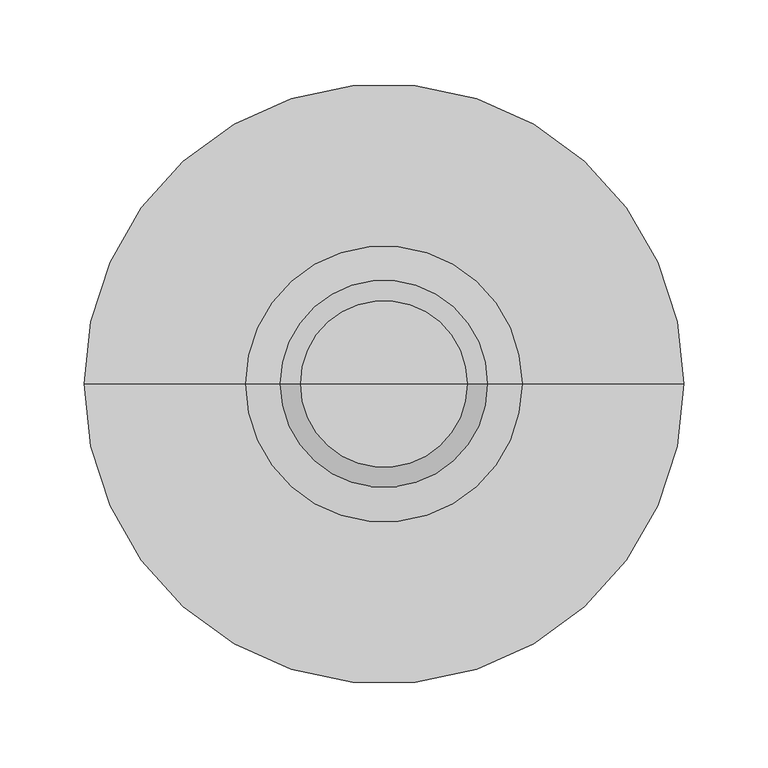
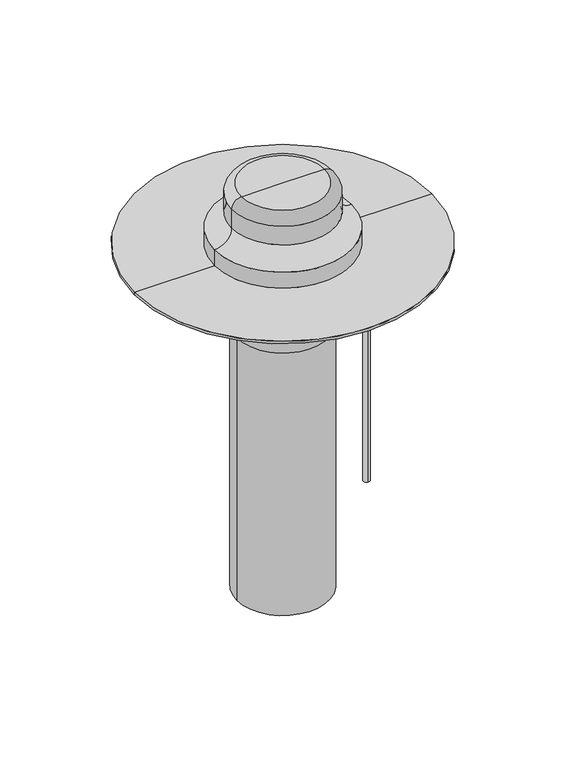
"""IFC4 building model written with IfcOpenShell, lengths in millimetres: flow terminal geometry, BIMLIB_Воронка_Кровельная_Fachmann_VMO : 110х450."""

from ifc_helpers import new_model, si_unit, point, frame, frame_2d, origin, origin_with_axes, place, context, project, spatial, polyline, circle_curve, ellipse_curve, trimmed, segment, composite_curve, outline, extrude, source, transform, mapped, element, save
from ifc_brep_helpers import plane_surface, cylinder_surface, revolved_surface, advanced_brep


def flow_terminal_62a79a80(model_context):
    return source(origin(), model_context, "Body", "SolidModel", [
        extrude(outline(composite_curve([segment(trimmed(circle_curve(frame_2d((100.0, 0.0)), 4.0), [point((100.0, 4.0))], [point((100.0, -4.0))], False, "CARTESIAN"), True, "CONTINUOUS"), segment(trimmed(circle_curve(frame_2d((100.0, 0.0)), 4.0), [point((100.0, -4.0))], [point((100.0, 4.0))], False, "CARTESIAN"), True, "CONTINUOUS")], self_intersect=False)), frame((0.0, 0.0, -332.0), z_axis=(0.0, 0.0, 1.0), x_axis=(1.0, 0.0, 0.0)), (0.0, 0.0, 1.0), 300.0),
        advanced_brep(
        [(55.0, 0.0, -430.0), (-55.0, 0.0, -430.0), (-55.0, 0.0, -98.0), (55.0, 0.0, -98.0), (-113.0, 0.0, -9.0), (113.0, 0.0, -9.0), (113.0, 0.0, -32.0), (-113.0, 0.0, -32.0), (0.0, 0.0, 0.0), (138.0, 0.0, 0.0), (-138.0, 0.0, 0.0), (-90.0, 0.0, -32.0), (90.0, 0.0, -32.0), (90.0, 0.0, -40.0), (-90.0, 0.0, -40.0)],
        [
            (0, 1, circle_curve(frame((0.0, 0.0, -430.0), z_axis=(0.0, 0.0, -1.0), x_axis=(-1.0, 0.0, 0.0)), 55.0)),
            (1, 0, circle_curve(frame((0.0, 0.0, -430.0), z_axis=(0.0, 0.0, -1.0), x_axis=(-1.0, 0.0, 0.0)), 55.0)),
            (1, 2),
            (2, 3, circle_curve(frame((0.0, 0.0, -98.0), z_axis=(0.0, 0.0, -1.0), x_axis=(-1.0, 0.0, 0.0)), 55.0)),
            (3, 0),
            (3, 2, circle_curve(frame((0.0, 0.0, -98.0), z_axis=(0.0, 0.0, -1.0), x_axis=(-1.0, 0.0, 0.0)), 55.0)),
            (4, 5, circle_curve(frame((0.0, 0.0, -9.0), z_axis=(0.0, 0.0, -1.0), x_axis=(1.0, 0.0, 0.0)), 113.0)),
            (5, 6),
            (6, 7, circle_curve(frame((0.0, 0.0, -32.0), z_axis=(0.0, 0.0, 1.0), x_axis=(1.0, 0.0, 0.0)), 113.0)),
            (7, 4),
            (5, 4, circle_curve(frame((0.0, 0.0, -9.0), z_axis=(0.0, 0.0, -1.0), x_axis=(1.0, 0.0, 0.0)), 113.0)),
            (7, 6, circle_curve(frame((0.0, 0.0, -32.0), z_axis=(0.0, 0.0, 1.0), x_axis=(1.0, 0.0, 0.0)), 113.0)),
            (8, 9),
            (9, 10, circle_curve(origin_with_axes(), 138.0)),
            (10, 8),
            (10, 9, circle_curve(origin_with_axes(), 138.0)),
            (4, 10),
            (9, 5),
            (11, 12, circle_curve(frame((0.0, 0.0, -32.0), z_axis=(0.0, 0.0, -1.0), x_axis=(1.0, 0.0, 0.0)), 90.0)),
            (12, 13),
            (13, 14, circle_curve(frame((0.0, 0.0, -40.0), z_axis=(0.0, 0.0, 1.0), x_axis=(1.0, 0.0, 0.0)), 90.0)),
            (14, 11),
            (12, 11, circle_curve(frame((0.0, 0.0, -32.0), z_axis=(0.0, 0.0, -1.0), x_axis=(1.0, 0.0, 0.0)), 90.0)),
            (14, 13, circle_curve(frame((0.0, 0.0, -40.0), z_axis=(0.0, 0.0, 1.0), x_axis=(1.0, 0.0, 0.0)), 90.0)),
            (6, 12),
            (11, 7),
            (13, 3),
            (2, 14),
        ],
        [
            plane_surface(frame((-55.0, 0.0, -430.0), z_axis=(0.0, 0.0, -1.0), x_axis=(0.0, 1.0, 0.0))),
            cylinder_surface(frame((0.0, 0.0, -430.0), z_axis=(0.0, 0.0, 1.0), x_axis=(-1.0, 0.0, 0.0)), 55.0),
            cylinder_surface(frame((0.0, 0.0, 159.0), z_axis=(0.0, 0.0, 1.0), x_axis=(1.0, 0.0, 0.0)), 113.0),
            plane_surface(origin_with_axes()),
            revolved_surface(polyline([(113.0, 0.0, -9.0), (138.0, 0.0, 0.0)]), (0.0, 0.0, 159.0), (0.0, 0.0, 1.0)),
            cylinder_surface(frame((0.0, 0.0, 159.0), z_axis=(0.0, 0.0, 1.0), x_axis=(1.0, 0.0, 0.0)), 90.0),
            plane_surface(frame((0.0, 0.0, -32.0), z_axis=(0.0, 0.0, -1.0), x_axis=(1.0, 0.0, 0.0))),
            revolved_surface(polyline([(55.0, 0.0, -98.0), (90.0, 0.0, -40.0)]), (0.0, 0.0, 159.0), (0.0, 0.0, 1.0)),
        ],
        [
            (0, [[1, 2]]),
            (1, [[-2, 3, 4, 5]]),
            (1, [[-1, -5, 6, -3]]),
            (2, [[7, 8, 9, 10]]),
            (2, [[-8, 11, -10, 12]]),
            (3, [[13, 14, 15]]),
            (3, [[-13, -15, 16]]),
            (4, [[-7, 17, -14, 18]]),
            (4, [[-11, -18, -16, -17]]),
            (5, [[19, 20, 21, 22]]),
            (5, [[-20, 23, -22, 24]]),
            (6, [[-9, 25, -19, 26]]),
            (6, [[-12, -26, -23, -25]]),
            (7, [[-21, 27, -4, 28]]),
            (7, [[-24, -28, -6, -27]]),
        ],
    ),
        advanced_brep(
        [(0.0, 0.0, 79.0), (49.5, 0.0, 79.0), (-49.5, 0.0, 79.0), (-178.0, 0.0, 0.0), (178.0, 0.0, 0.0), (0.0, 0.0, 0.0), (-178.0, 0.0, 3.0), (178.0, 0.0, 3.0), (-82.0, 0.0, 3.0), (82.0, 0.0, 3.0), (-61.5, 0.0, 67.0), (61.5, 0.0, 67.0), (61.5, 0.0, 43.5), (-61.5, 0.0, 43.5), (-82.0, 0.0, 23.0), (82.0, 0.0, 23.0)],
        [
            (0, 1),
            (1, 2, circle_curve(frame((0.0, 0.0, 79.0), z_axis=(0.0, 0.0, 1.0), x_axis=(1.0, 0.0, 0.0)), 49.5)),
            (2, 0),
            (2, 1, circle_curve(frame((0.0, 0.0, 79.0), z_axis=(0.0, 0.0, 1.0), x_axis=(1.0, 0.0, 0.0)), 49.5)),
            (3, 4, circle_curve(frame((0.0, 0.0, 0.0), z_axis=(0.0, 0.0, -1.0), x_axis=(1.0, 0.0, 0.0)), 178.0)),
            (4, 5),
            (5, 3),
            (4, 3, circle_curve(frame((0.0, 0.0, 0.0), z_axis=(0.0, 0.0, -1.0), x_axis=(1.0, 0.0, 0.0)), 178.0)),
            (6, 7, circle_curve(frame((0.0, 0.0, 3.0), z_axis=(0.0, 0.0, -1.0), x_axis=(1.0, 0.0, 0.0)), 178.0)),
            (7, 4),
            (3, 6),
            (7, 6, circle_curve(frame((0.0, 0.0, 3.0), z_axis=(0.0, 0.0, -1.0), x_axis=(1.0, 0.0, 0.0)), 178.0)),
            (8, 9, circle_curve(frame((0.0, 0.0, 3.0), z_axis=(0.0, 0.0, -1.0), x_axis=(1.0, 0.0, 0.0)), 82.0)),
            (9, 7),
            (6, 8),
            (9, 8, circle_curve(frame((0.0, 0.0, 3.0), z_axis=(0.0, 0.0, -1.0), x_axis=(1.0, 0.0, 0.0)), 82.0)),
            (10, 11, circle_curve(frame((0.0, 0.0, 67.0), z_axis=(0.0, 0.0, -1.0), x_axis=(1.0, 0.0, 0.0)), 61.5)),
            (11, 12),
            (12, 13, circle_curve(frame((0.0, 0.0, 43.5), z_axis=(0.0, 0.0, 1.0), x_axis=(1.0, 0.0, 0.0)), 61.5)),
            (13, 10),
            (11, 10, circle_curve(frame((0.0, 0.0, 67.0), z_axis=(0.0, 0.0, -1.0), x_axis=(1.0, 0.0, 0.0)), 61.5)),
            (13, 12, circle_curve(frame((0.0, 0.0, 43.5), z_axis=(0.0, 0.0, 1.0), x_axis=(1.0, 0.0, 0.0)), 61.5)),
            (1, 11, circle_curve(frame((49.5, 0.0, 67.0), z_axis=(0.0, 1.0, 0.0), x_axis=(1.0, 0.0, 0.0)), 12.0)),
            (10, 2, circle_curve(frame((-49.5, 0.0, 67.0), z_axis=(0.0, 1.0, 0.0), x_axis=(-1.0, 0.0, 0.0)), 12.0)),
            (14, 15, circle_curve(frame((0.0, 0.0, 23.0), z_axis=(0.0, 0.0, -1.0), x_axis=(1.0, 0.0, 0.0)), 82.0)),
            (15, 9),
            (8, 14),
            (15, 14, circle_curve(frame((0.0, 0.0, 23.0), z_axis=(0.0, 0.0, -1.0), x_axis=(1.0, 0.0, 0.0)), 82.0)),
            (12, 15, circle_curve(frame((82.0, 0.0, 43.5), z_axis=(0.0, -1.0, 0.0), x_axis=(1.0, 0.0, 0.0)), 20.5)),
            (14, 13, circle_curve(frame((-82.0, 0.0, 43.5), z_axis=(0.0, -1.0, 0.0), x_axis=(-1.0, 0.0, 0.0)), 20.5)),
        ],
        [
            plane_surface(frame((0.0, 0.0, 79.0), z_axis=(0.0, 0.0, 1.0), x_axis=(1.0, 0.0, 0.0))),
            plane_surface(frame((0.0, 0.0, 0.0), z_axis=(0.0, 0.0, -1.0), x_axis=(1.0, 0.0, 0.0))),
            cylinder_surface(frame((0.0, 0.0, 229.0), z_axis=(0.0, 0.0, 1.0), x_axis=(1.0, 0.0, 0.0)), 178.0),
            plane_surface(frame((0.0, 0.0, 3.0), z_axis=(0.0, 0.0, 1.0), x_axis=(1.0, 0.0, 0.0))),
            cylinder_surface(frame((0.0, 0.0, 229.0), z_axis=(0.0, 0.0, 1.0), x_axis=(1.0, 0.0, 0.0)), 61.5),
            revolved_surface(trimmed(ellipse_curve(frame((49.5, 0.0, 67.0), z_axis=(0.0, -1.0, 0.0), x_axis=(1.0, 0.0, 0.0)), 12.0, 12.0), [point((61.5, 0.0, 67.0))], [point((49.5, 0.0, 79.0))], True, "CARTESIAN"), (0.0, 0.0, 229.0), (0.0, 0.0, 1.0)),
            cylinder_surface(frame((0.0, 0.0, 229.0), z_axis=(0.0, 0.0, 1.0), x_axis=(1.0, 0.0, 0.0)), 82.0),
            revolved_surface(trimmed(ellipse_curve(frame((82.0, 0.0, 43.5), z_axis=(0.0, 1.0, 0.0), x_axis=(1.0, 0.0, 0.0)), 20.5, 20.5), [point((82.0, 0.0, 23.0))], [point((61.5, 0.0, 43.5))], True, "CARTESIAN"), (0.0, 0.0, 229.0), (0.0, 0.0, 1.0)),
        ],
        [
            (0, [[1, 2, 3]]),
            (0, [[-3, 4, -1]]),
            (1, [[5, 6, 7]]),
            (1, [[8, -7, -6]]),
            (2, [[9, 10, -5, 11]]),
            (2, [[12, -11, -8, -10]]),
            (3, [[13, 14, -9, 15]]),
            (3, [[16, -15, -12, -14]]),
            (4, [[17, 18, 19, 20]]),
            (4, [[21, -20, 22, -18]]),
            (5, [[-2, 23, -17, 24]]),
            (5, [[-4, -24, -21, -23]]),
            (6, [[25, 26, -13, 27]]),
            (6, [[28, -27, -16, -26]]),
            (7, [[-19, 29, -25, 30]]),
            (7, [[-22, -30, -28, -29]]),
        ],
    ),
    ])


if __name__ == "__main__":
    model = new_model("IFC4")
    model_context = context("Model", 3, world=origin())
    ifc_project = project(units=[si_unit("LENGTHUNIT", "METRE", prefix="MILLI")], contexts=[model_context])
    site = spatial("IfcSite", under=ifc_project)
    building = spatial("IfcBuilding", under=site)
    placement = place(None, origin())
    flow_terminal_shape = flow_terminal_62a79a80(model_context)
    element("IfcFlowTerminal", 1, ObjectType="BIMLIB_Воронка_Кровельная_Fachmann_VMO : 110х450", at=placement, inside=building, context=model_context, shape_type="MappedRepresentation", body=[
        mapped(flow_terminal_shape, transform((0.0, 0.0, 0.0), x_axis=(1.0, 0.0, 0.0), y_axis=(0.0, 1.0, 0.0), z_axis=(0.0, 0.0, 1.0))),
    ])
    save(model, "model.ifc")
